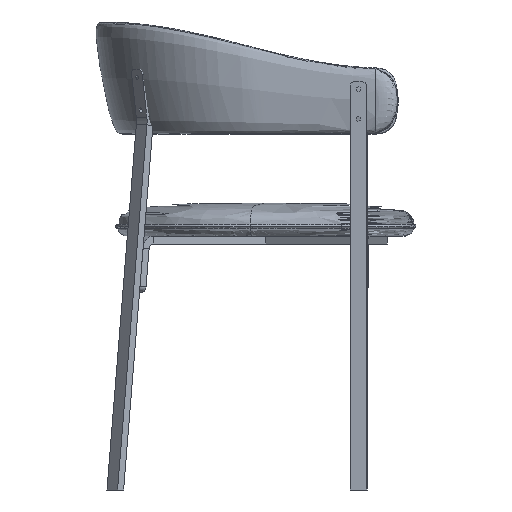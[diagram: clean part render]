
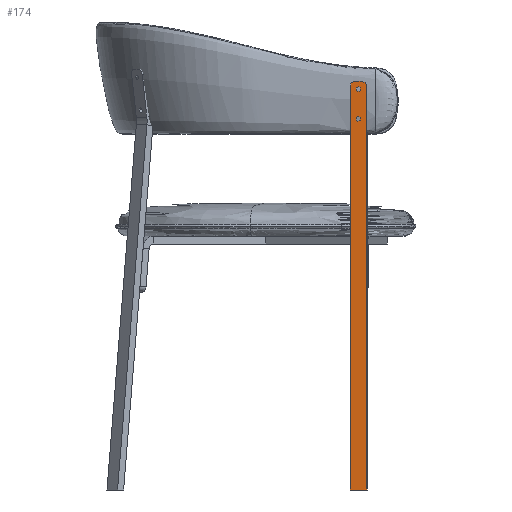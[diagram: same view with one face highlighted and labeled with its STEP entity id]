
A CAD part, left-side view. The second image highlights one B-rep face of the part: STEP entity #174.
In plain terms, the highlighted planar face has unit normal (-0.994, 0.113, 0).
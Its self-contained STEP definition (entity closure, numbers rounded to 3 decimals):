
#74=FACE_BOUND('',#647,.T.);
#75=FACE_BOUND('',#648,.T.);
#174=ADVANCED_FACE('',(#404,#74,#75),#3397,.T.);
#404=FACE_OUTER_BOUND('',#646,.T.);
#646=EDGE_LOOP('',(#1180,#1181,#1182,#1183,#1184,#1185));
#647=EDGE_LOOP('',(#1186,#1187));
#648=EDGE_LOOP('',(#1188,#1189));
#1180=ORIENTED_EDGE('',*,*,#2060,.F.);
#1181=ORIENTED_EDGE('',*,*,#2066,.T.);
#1182=ORIENTED_EDGE('',*,*,#2053,.F.);
#1183=ORIENTED_EDGE('',*,*,#2055,.T.);
#1184=ORIENTED_EDGE('',*,*,#2056,.T.);
#1185=ORIENTED_EDGE('',*,*,#2068,.T.);
#1186=ORIENTED_EDGE('',*,*,#2070,.T.);
#1187=ORIENTED_EDGE('',*,*,#2077,.T.);
#1188=ORIENTED_EDGE('',*,*,#2073,.T.);
#1189=ORIENTED_EDGE('',*,*,#2080,.T.);
#2053=EDGE_CURVE('',#3061,#3064,#2765,.T.);
#2055=EDGE_CURVE('',#3061,#3062,#2767,.T.);
#2056=EDGE_CURVE('',#3062,#3066,#2768,.T.);
#2060=EDGE_CURVE('',#3068,#3067,#2772,.T.);
#2066=EDGE_CURVE('',#3068,#3064,#2455,.T.);
#2068=EDGE_CURVE('',#3066,#3067,#2457,.T.);
#2070=EDGE_CURVE('',#3072,#3076,#2459,.T.);
#2073=EDGE_CURVE('',#3074,#3078,#2462,.T.);
#2077=EDGE_CURVE('',#3076,#3072,#2466,.T.);
#2080=EDGE_CURVE('',#3078,#3074,#2469,.T.);
#2455=(
BOUNDED_CURVE()
B_SPLINE_CURVE(2,(#5430,#5431,#5432),.UNSPECIFIED.,.F.,.F.)
B_SPLINE_CURVE_WITH_KNOTS((3,3),(-12.566,0.),.UNSPECIFIED.)
CURVE()
GEOMETRIC_REPRESENTATION_ITEM()
RATIONAL_B_SPLINE_CURVE((1.,0.707,1.))
REPRESENTATION_ITEM('')
);
#2457=(
BOUNDED_CURVE()
B_SPLINE_CURVE(2,(#5436,#5437,#5438),.UNSPECIFIED.,.F.,.F.)
B_SPLINE_CURVE_WITH_KNOTS((3,3),(0.,12.566),.UNSPECIFIED.)
CURVE()
GEOMETRIC_REPRESENTATION_ITEM()
RATIONAL_B_SPLINE_CURVE((1.,0.707,1.))
REPRESENTATION_ITEM('')
);
#2459=(
BOUNDED_CURVE()
B_SPLINE_CURVE(2,(#5442,#5443,#5444,#5445,#5446),.UNSPECIFIED.,.F.,.F.)
B_SPLINE_CURVE_WITH_KNOTS((3,2,3),(0.,5.498,10.996),
 .UNSPECIFIED.)
CURVE()
GEOMETRIC_REPRESENTATION_ITEM()
RATIONAL_B_SPLINE_CURVE((1.,0.707,1.,0.707,1.))
REPRESENTATION_ITEM('')
);
#2462=(
BOUNDED_CURVE()
B_SPLINE_CURVE(2,(#5454,#5455,#5456,#5457,#5458),.UNSPECIFIED.,.F.,.F.)
B_SPLINE_CURVE_WITH_KNOTS((3,2,3),(0.,5.498,10.996),
 .UNSPECIFIED.)
CURVE()
GEOMETRIC_REPRESENTATION_ITEM()
RATIONAL_B_SPLINE_CURVE((1.,0.707,1.,0.707,1.))
REPRESENTATION_ITEM('')
);
#2466=(
BOUNDED_CURVE()
B_SPLINE_CURVE(2,(#5468,#5469,#5470,#5471,#5472),.UNSPECIFIED.,.F.,.F.)
B_SPLINE_CURVE_WITH_KNOTS((3,2,3),(10.996,16.493,21.991),
 .UNSPECIFIED.)
CURVE()
GEOMETRIC_REPRESENTATION_ITEM()
RATIONAL_B_SPLINE_CURVE((1.,0.707,1.,0.707,1.))
REPRESENTATION_ITEM('')
);
#2469=(
BOUNDED_CURVE()
B_SPLINE_CURVE(2,(#5480,#5481,#5482,#5483,#5484),.UNSPECIFIED.,.F.,.F.)
B_SPLINE_CURVE_WITH_KNOTS((3,2,3),(10.996,16.493,21.991),
 .UNSPECIFIED.)
CURVE()
GEOMETRIC_REPRESENTATION_ITEM()
RATIONAL_B_SPLINE_CURVE((1.,0.707,1.,0.707,1.))
REPRESENTATION_ITEM('')
);
#2765=B_SPLINE_CURVE_WITH_KNOTS('',1,(#5404,#5405),.UNSPECIFIED.,.F.,.F.,
(2,2),(0.,612.),.UNSPECIFIED.);
#2767=B_SPLINE_CURVE_WITH_KNOTS('',1,(#5408,#5409),.UNSPECIFIED.,.F.,.F.,
(2,2),(64.,86.),.UNSPECIFIED.);
#2768=B_SPLINE_CURVE_WITH_KNOTS('',1,(#5410,#5411),.UNSPECIFIED.,.F.,.F.,
(2,2),(0.,612.),.UNSPECIFIED.);
#2772=B_SPLINE_CURVE_WITH_KNOTS('',1,(#5418,#5419),.UNSPECIFIED.,.F.,.F.,
(2,2),(71.04,78.96),.UNSPECIFIED.);
#3061=VERTEX_POINT('',#5383);
#3062=VERTEX_POINT('',#5384);
#3064=VERTEX_POINT('',#5386);
#3066=VERTEX_POINT('',#5388);
#3067=VERTEX_POINT('',#5389);
#3068=VERTEX_POINT('',#5390);
#3072=VERTEX_POINT('',#5394);
#3074=VERTEX_POINT('',#5396);
#3076=VERTEX_POINT('',#5398);
#3078=VERTEX_POINT('',#5400);
#3397=PLANE('',#3531);
#3531=AXIS2_PLACEMENT_3D('',#5324,#3565,$);
#3565=DIRECTION('',(-0.994,0.113,0.));
#5324=CARTESIAN_POINT('',(-274.247,-102.862,0.));
#5383=CARTESIAN_POINT('',(-274.247,-102.862,0.));
#5384=CARTESIAN_POINT('',(-277.077,-127.702,0.));
#5386=CARTESIAN_POINT('',(-274.247,-102.862,612.));
#5388=CARTESIAN_POINT('',(-277.077,-127.702,612.));
#5389=CARTESIAN_POINT('',(-276.172,-119.753,620.));
#5390=CARTESIAN_POINT('',(-275.153,-110.811,620.));
#5394=CARTESIAN_POINT('',(-275.266,-111.805,608.));
#5396=CARTESIAN_POINT('',(-275.266,-111.805,563.));
#5398=CARTESIAN_POINT('',(-276.058,-118.76,608.));
#5400=CARTESIAN_POINT('',(-276.058,-118.76,563.));
#5404=CARTESIAN_POINT('',(-274.247,-102.862,0.));
#5405=CARTESIAN_POINT('',(-274.247,-102.862,612.));
#5408=CARTESIAN_POINT('',(-274.247,-102.862,0.));
#5409=CARTESIAN_POINT('',(-277.077,-127.702,0.));
#5410=CARTESIAN_POINT('',(-277.077,-127.702,0.));
#5411=CARTESIAN_POINT('',(-277.077,-127.702,612.));
#5418=CARTESIAN_POINT('',(-275.153,-110.811,620.));
#5419=CARTESIAN_POINT('',(-276.172,-119.753,620.));
#5430=CARTESIAN_POINT('',(-275.153,-110.811,620.));
#5431=CARTESIAN_POINT('',(-274.247,-102.862,620.));
#5432=CARTESIAN_POINT('',(-274.247,-102.862,612.));
#5436=CARTESIAN_POINT('',(-277.077,-127.702,612.));
#5437=CARTESIAN_POINT('',(-277.077,-127.702,620.));
#5438=CARTESIAN_POINT('',(-276.172,-119.753,620.));
#5442=CARTESIAN_POINT('',(-275.266,-111.805,608.));
#5443=CARTESIAN_POINT('',(-275.266,-111.805,611.5));
#5444=CARTESIAN_POINT('',(-275.662,-115.282,611.5));
#5445=CARTESIAN_POINT('',(-276.058,-118.76,611.5));
#5446=CARTESIAN_POINT('',(-276.058,-118.76,608.));
#5454=CARTESIAN_POINT('',(-275.266,-111.805,563.));
#5455=CARTESIAN_POINT('',(-275.266,-111.805,566.5));
#5456=CARTESIAN_POINT('',(-275.662,-115.282,566.5));
#5457=CARTESIAN_POINT('',(-276.058,-118.76,566.5));
#5458=CARTESIAN_POINT('',(-276.058,-118.76,563.));
#5468=CARTESIAN_POINT('',(-276.058,-118.76,608.));
#5469=CARTESIAN_POINT('',(-276.058,-118.76,604.5));
#5470=CARTESIAN_POINT('',(-275.662,-115.282,604.5));
#5471=CARTESIAN_POINT('',(-275.266,-111.805,604.5));
#5472=CARTESIAN_POINT('',(-275.266,-111.805,608.));
#5480=CARTESIAN_POINT('',(-276.058,-118.76,563.));
#5481=CARTESIAN_POINT('',(-276.058,-118.76,559.5));
#5482=CARTESIAN_POINT('',(-275.662,-115.282,559.5));
#5483=CARTESIAN_POINT('',(-275.266,-111.805,559.5));
#5484=CARTESIAN_POINT('',(-275.266,-111.805,563.));
